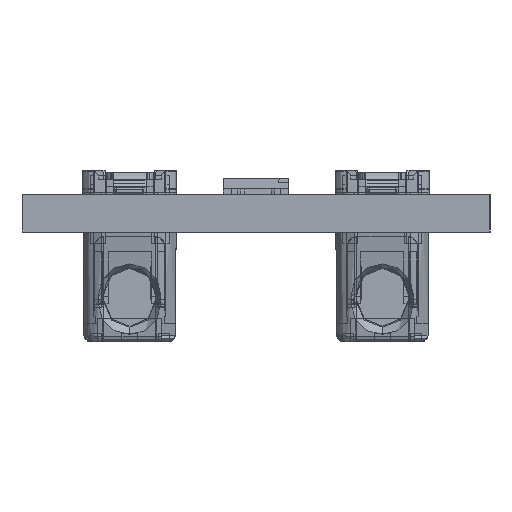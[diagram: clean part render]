
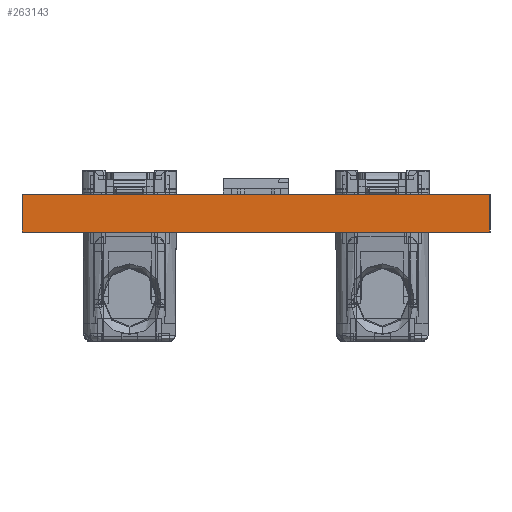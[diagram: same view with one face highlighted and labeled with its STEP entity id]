
A CAD part, left-side view. The second image highlights one B-rep face of the part: STEP entity #263143.
In plain terms, the highlighted planar face has unit normal (-1, 0, 0).
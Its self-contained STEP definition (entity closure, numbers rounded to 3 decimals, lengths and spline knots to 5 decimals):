
#14662=FACE_OUTER_BOUND('',#28054,.T.);
#28054=EDGE_LOOP('',(#223225,#223226,#223227,#223228));
#34251=LINE('',#350766,#66293);
#63160=LINE('',#416827,#95202);
#63178=LINE('',#416858,#95220);
#63208=LINE('',#416914,#95250);
#66293=VECTOR('',#286323,0.3937);
#95202=VECTOR('',#340450,0.3937);
#95220=VECTOR('',#340488,0.3937);
#95250=VECTOR('',#340538,0.3937);
#98315=VERTEX_POINT('',#350763);
#98316=VERTEX_POINT('',#350765);
#118995=VERTEX_POINT('',#416826);
#118998=VERTEX_POINT('',#416857);
#122833=EDGE_CURVE('',#98315,#98316,#34251,.T.);
#153928=EDGE_CURVE('',#98316,#118995,#63160,.T.);
#153946=EDGE_CURVE('',#118995,#118998,#63178,.T.);
#153976=EDGE_CURVE('',#98315,#118998,#63208,.T.);
#223225=ORIENTED_EDGE('',*,*,#122833,.F.);
#223226=ORIENTED_EDGE('',*,*,#153976,.T.);
#223227=ORIENTED_EDGE('',*,*,#153946,.F.);
#223228=ORIENTED_EDGE('',*,*,#153928,.F.);
#237846=PLANE('',#279128);
#263143=ADVANCED_FACE('',(#14662),#237846,.T.);
#279128=AXIS2_PLACEMENT_3D('',#416955,#340603,#340604);
#286323=DIRECTION('',(0.,-1.,0.));
#340450=DIRECTION('',(0.,0.,-1.));
#340488=DIRECTION('',(0.,1.,0.));
#340538=DIRECTION('',(0.,0.,-1.));
#340603=DIRECTION('center_axis',(-1.,0.,0.));
#340604=DIRECTION('ref_axis',(0.,1.,0.));
#350763=CARTESIAN_POINT('',(-27.54331,0.7874,0.));
#350765=CARTESIAN_POINT('',(-27.54331,0.,0.));
#350766=CARTESIAN_POINT('',(-27.54331,0.7874,0.));
#416826=CARTESIAN_POINT('',(-27.54331,0.,-0.06299));
#416827=CARTESIAN_POINT('',(-27.54331,0.,0.));
#416857=CARTESIAN_POINT('',(-27.54331,0.7874,-0.06299));
#416858=CARTESIAN_POINT('',(-27.54331,0.7874,-0.06299));
#416914=CARTESIAN_POINT('',(-27.54331,0.7874,0.));
#416955=CARTESIAN_POINT('Origin',(-27.54331,0.,0.));
